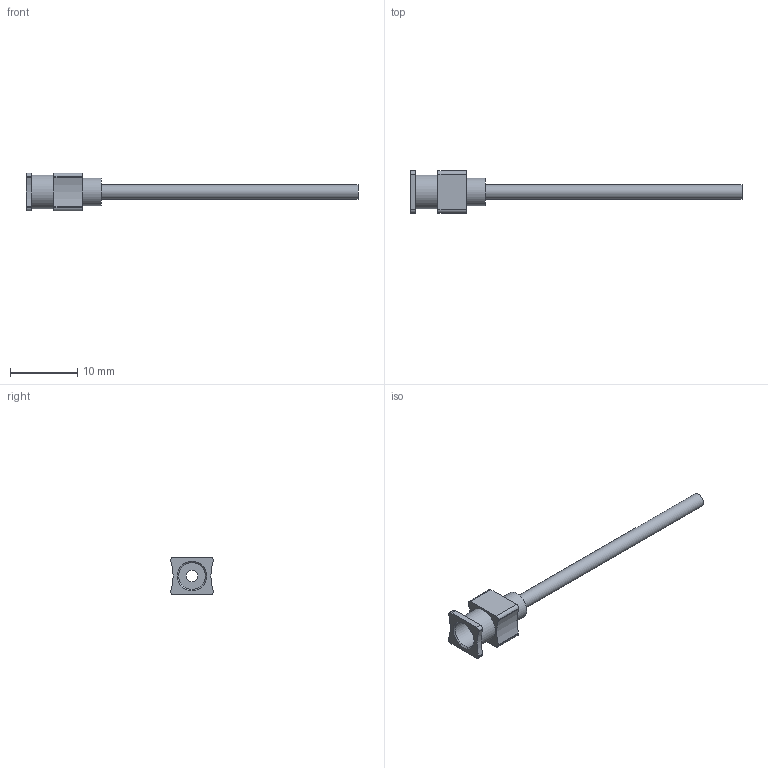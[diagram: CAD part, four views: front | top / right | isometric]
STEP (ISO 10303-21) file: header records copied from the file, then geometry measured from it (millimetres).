
FILE_DESCRIPTION (( 'STEP AP214' ), '1' );
FILE_NAME ('DAV SS 14 15.STEP', '2022-04-14T11:19:34', ( '' ), ( '' ), 'SwSTEP 2.0', 'SolidWorks 2021', '' );
FILE_SCHEMA (( 'AUTOMOTIVE_DESIGN' ));
Length unit declared in the file: millimetre
Products named in the file (1): DAV SS 14 15
Bounding box: 49.3 x 6.3 x 5.6 mm (x, y, z)
Volume: 209.2 mm3; surface area: 869.3 mm2
Topology: 1 solids, 1 shells, 37 faces, 91 edges, 61 vertices
Faces by surface type: plane 19, cylinder 17, cone 1
Full cylindrical faces by diameter (mm): 1.77 x1, 2.11 x1, 4 x1, 4.11 x1, 5 x1
Entity records: 1098 total; most frequent: DIRECTION 194, CARTESIAN_POINT 180, ORIENTED_EDGE 166, EDGE_CURVE 83, AXIS2_PLACEMENT_3D 73, VERTEX_POINT 59, EDGE_LOOP 50, LINE 48
